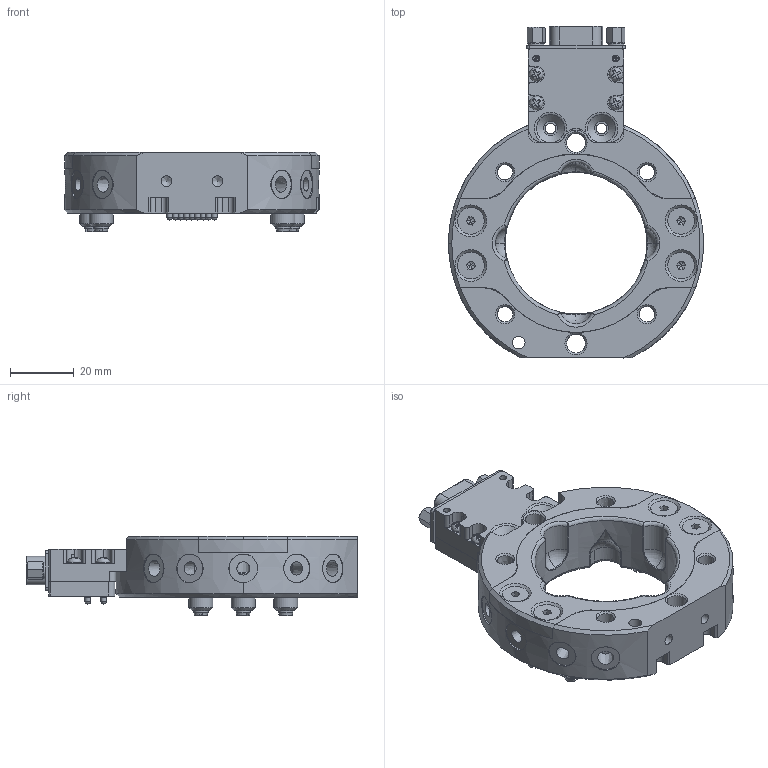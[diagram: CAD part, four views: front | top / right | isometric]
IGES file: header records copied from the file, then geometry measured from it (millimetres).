
Start section: SolidWorks IGES file using analytic representation for surfaces
Global section: file name: C:\Users\STAR079\Desktop\140293\ネット記載用\140293.IGS; native system: SolidWorks 2013; preprocessor: SolidWorks 2013; author: STAR079; date: 160708.130455; units: millimetre
Bounding box: 80 x 104.2 x 24.8 mm (x, y, z)
Surface area: 44429.9 mm2 (no closed solid volume)
Topology: 0 solids, 0 shells, 1598 faces, 8468 edges, 7763 vertices
Faces by surface type: bspline 987, revolution 611
